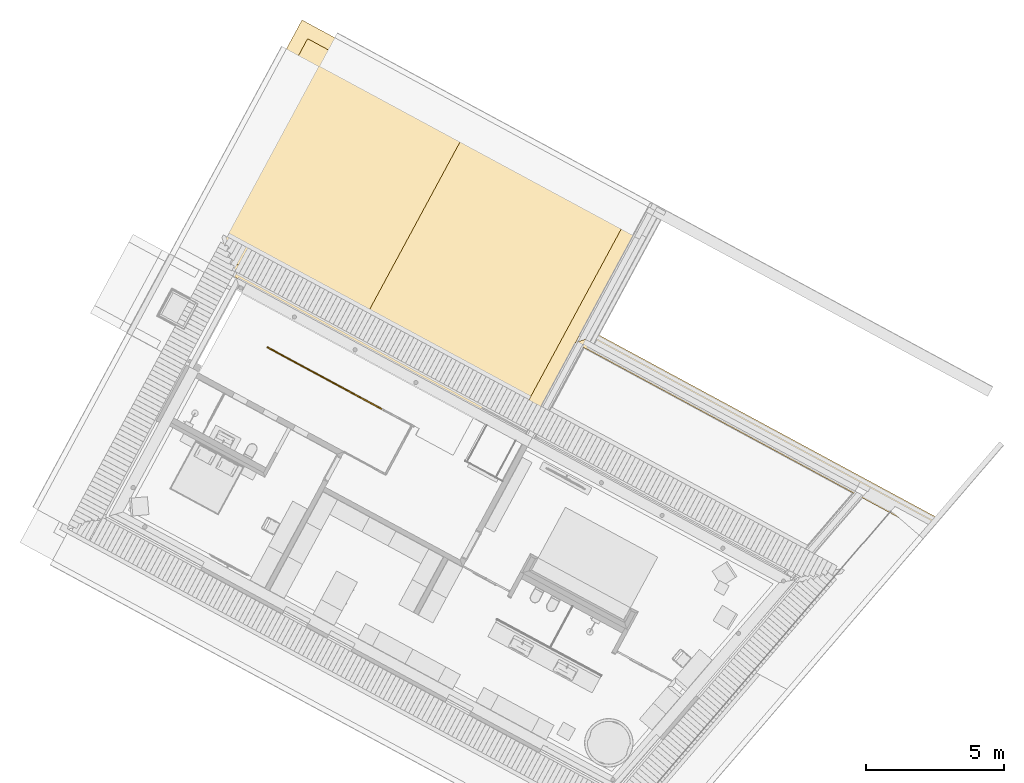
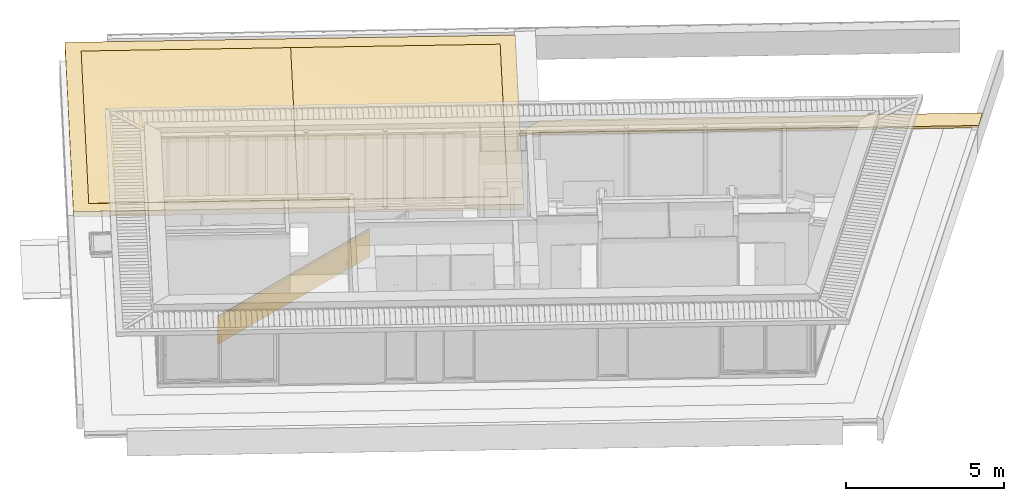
# One storey, part 14 of 41: 4 coverings, 1 railing.
"""IFC2X3 building model written with IfcOpenShell, lengths in metres."""

from ifc_helpers import new_model, entity, si_unit, converted_unit, derived_unit, money_unit, direction, frame, origin_with_axes, place, context, subcontext, project, spatial, polyline, outline, composite_profile, extrude, boolean, faceted_brep, material, material_list, type_object, element, save


model = new_model("IFC2X3")

# Units and contexts
model_context = context("Model", 3, precision=1e-05, world=origin_with_axes(), true_north=direction((0.0, 1.0)))
body_context = subcontext(model_context, "Body", "Model", "MODEL_VIEW")
ifc_project = project(units=[si_unit("LENGTHUNIT", "METRE"), si_unit("AREAUNIT", "SQUARE_METRE"), si_unit("VOLUMEUNIT", "CUBIC_METRE"), converted_unit("PLANEANGLEUNIT", "DEGREE", entity("IfcPlaneAngleMeasure", 0.0174532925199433), si_unit("PLANEANGLEUNIT", "RADIAN"), dimensions=[0, 0, 0, 0, 0, 0, 0]), money_unit("EUR"), converted_unit("TIMEUNIT", "Year", entity("IfcTimeMeasure", 31556926.0), si_unit("TIMEUNIT", "SECOND"), dimensions=[0, 0, 1, 0, 0, 0, 0]), si_unit("MASSUNIT", "GRAM", prefix="KILO"), si_unit("THERMODYNAMICTEMPERATUREUNIT", "DEGREE_CELSIUS"), si_unit("LUMINOUSINTENSITYUNIT", "LUMEN"), si_unit("ENERGYUNIT", "JOULE", prefix="MEGA"), derived_unit("THERMALCONDUCTANCEUNIT", [(si_unit("POWERUNIT", "WATT"), 1), (si_unit("LENGTHUNIT", "METRE"), -1), (si_unit("THERMODYNAMICTEMPERATUREUNIT", "KELVIN"), -1)]), derived_unit("SPECIFICHEATCAPACITYUNIT", [(si_unit("ENERGYUNIT", "JOULE"), 1), (si_unit("MASSUNIT", "GRAM", prefix="KILO"), -1), (si_unit("THERMODYNAMICTEMPERATUREUNIT", "KELVIN"), -1)]), derived_unit("MASSDENSITYUNIT", [(si_unit("MASSUNIT", "GRAM", prefix="KILO"), 1), (si_unit("VOLUMEUNIT", "CUBIC_METRE"), -1)])], contexts=[model_context])

# Site, building, storey
site_placement = place(None, frame((-3.949935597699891, 1.740105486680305, 0.0), z_axis=(0.0, 0.0, 1.0), x_axis=(0.8799804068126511, -0.475009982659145, 0.0)))
site = spatial("IfcSite", under=ifc_project, at=site_placement, Name="Gelände", CompositionType="ELEMENT")
building_placement = place(site_placement, origin_with_axes())
building = spatial("IfcBuilding", under=site, at=building_placement, Name="Gebäude", CompositionType="ELEMENT")
storey_placement = place(building_placement, frame((0.0, 0.0, 4.55), z_axis=(0.0, 0.0, 1.0), x_axis=(1.0, 0.0, 0.0)))
storey = spatial("IfcBuildingStorey", under=building, at=storey_placement, Name="Staffelgeschoss", CompositionType="ELEMENT", Elevation=4.55)

# Railing
ifc_material_1 = material(Name="Metall, Stahl lackiert")
ifc_material_2 = material(Name="Glas, Normalglas-50% durchlässig")
ifc_material_list_1 = material_list([ifc_material_1, ifc_material_1, ifc_material_1, ifc_material_1, ifc_material_1, ifc_material_2])
railing_type = type_object("IfcRailingType", Name="Geländerart", PredefinedType="NOTDEFINED")
railing_placement = place(storey_placement, frame((7.1514093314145, 9.357791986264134, -4.170822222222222), z_axis=(0.0, 0.0, 1.0), x_axis=(1.0, 0.0, 0.0)))
element("IfcRailing", 1, at=railing_placement, inside=storey, type_object=railing_type, material=ifc_material_list_1, Name="Geländer-005", PredefinedType="NOTDEFINED", context=body_context, shape_type="Brep", body=[
    faceted_brep([(0.2685803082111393, -0.01999975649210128, 0.01372528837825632), (0.2685798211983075, 0.02000024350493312, 0.01372528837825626), (0.2685798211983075, 0.02000024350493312, 1.113725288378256), (0.2685803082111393, -0.01999975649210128, 1.113725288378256), (0.2285803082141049, -0.02000024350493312, -0.01372528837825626), (0.2285798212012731, 0.01999975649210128, -0.01372528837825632), (0.2285798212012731, 0.01999975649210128, 1.086274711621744), (0.2285803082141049, -0.02000024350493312, 1.086274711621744)], [[[0, 1, 2, 3]], [[0, 4, 5, 1]], [[1, 5, 6, 2]], [[3, 2, 6, 7]], [[4, 0, 3, 7]], [[5, 4, 7, 6]]]),
    faceted_brep([(0.2485798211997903, 0.01999999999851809, 1.1), (0.2609850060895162, 0.02000015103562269, 1.06), (0.2385798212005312, 0.01999987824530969, 1.06), (0.2385798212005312, 0.01999987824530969, 0.0), (0.1985798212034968, 0.01999939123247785, 0.0), (0.1985798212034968, 0.01999939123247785, 1.1), (0.2485803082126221, -0.01999999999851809, 1.1), (0.2609854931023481, -0.01999984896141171, 1.06), (0.2385803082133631, -0.02000012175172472, 1.06), (0.2385803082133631, -0.02000012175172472, 0.0), (0.1985803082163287, -0.02000060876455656, 0.0), (0.1985803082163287, -0.02000060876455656, 1.1)], [[[0, 1, 2, 3, 4, 5]], [[0, 6, 7, 1]], [[1, 7, 8, 2]], [[2, 8, 9, 3]], [[4, 3, 9, 10]], [[11, 5, 4, 10]], [[6, 0, 5, 11]], [[7, 6, 11, 10, 9, 8]]]),
    faceted_brep([(5.005562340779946, -0.01994208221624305, 3.264547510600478), (5.005561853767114, 0.02005791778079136, 3.264547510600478), (5.005561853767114, 0.02005791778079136, 4.364547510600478), (5.005562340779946, -0.01994208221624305, 4.364547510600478), (4.965562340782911, -0.01994256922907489, 3.237096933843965), (4.96556185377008, 0.02005743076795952, 3.237096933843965), (4.96556185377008, 0.02005743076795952, 4.337096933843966), (4.965562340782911, -0.01994256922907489, 4.337096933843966)], [[[0, 1, 2, 3]], [[0, 4, 5, 1]], [[1, 5, 6, 2]], [[3, 2, 6, 7]], [[4, 0, 3, 7]], [[5, 4, 7, 6]]]),
    faceted_brep([(4.98556234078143, -0.01994232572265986, 4.350822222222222), (4.997967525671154, -0.01994217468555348, 4.310822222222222), (4.995562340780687, -0.01994220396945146, 4.310822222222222), (4.995562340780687, -0.01994220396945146, 3.250822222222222), (5.035562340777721, -0.01994171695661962, 3.250822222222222), (5.035562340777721, -0.01994171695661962, 4.350822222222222), (4.985561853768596, 0.02005767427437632, 4.350822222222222), (4.997967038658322, 0.02005782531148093, 4.310822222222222), (4.995561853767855, 0.02005779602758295, 4.310822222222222), (4.995561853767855, 0.02005779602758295, 3.250822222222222), (5.035561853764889, 0.02005828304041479, 3.250822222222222), (5.035561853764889, 0.02005828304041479, 4.350822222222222)], [[[0, 1, 2, 3, 4, 5]], [[0, 6, 7, 1]], [[1, 7, 8, 2]], [[2, 8, 9, 3]], [[4, 3, 9, 10]], [[11, 5, 4, 10]], [[6, 0, 5, 11]], [[7, 6, 11, 10, 9, 8]]]),
    faceted_brep([(0.2485803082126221, -0.01999999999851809, 1.1), (0.2609854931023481, -0.01999984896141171, 1.06), (4.997967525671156, -0.01994217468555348, 4.310822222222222), (4.98556234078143, -0.01994232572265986, 4.350822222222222), (0.2485798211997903, 0.01999999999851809, 1.1), (0.2609850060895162, 0.02000015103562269, 1.06), (4.997967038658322, 0.02005782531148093, 4.310822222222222), (4.985561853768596, 0.02005767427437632, 4.350822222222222)], [[[0, 1, 2, 3]], [[0, 4, 5, 1]], [[1, 5, 6, 2]], [[3, 2, 6, 7]], [[4, 0, 3, 7]], [[5, 4, 7, 6]]]),
    faceted_brep([(4.985561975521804, 0.01005767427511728, 3.250822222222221), (0.2485799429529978, 0.009999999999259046, 0.0), (0.2485799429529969, 0.009999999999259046, 0.9999999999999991), (4.985561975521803, 0.01005767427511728, 4.250822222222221), (0.2485801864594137, -0.009999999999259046, 0.0), (4.985562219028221, -0.009942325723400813, 3.250822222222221), (0.2485801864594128, -0.009999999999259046, 0.9999999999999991), (4.985562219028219, -0.009942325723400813, 4.250822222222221)], [[[0, 1, 2, 3]], [[4, 1, 0, 5]], [[6, 2, 1, 4]], [[3, 2, 6, 7]], [[0, 3, 7, 5]], [[6, 4, 5, 7]]]),
])

# Coverings
ifc_material_3 = material(Name="_SIWH - Gründach")
covering_type_1 = type_object("IfcCoveringType", Name="_SIWH - Gründach", PredefinedType="ROOFING")
covering_1_placement = place(storey_placement, frame((9.972490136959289, 11.0378005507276, -0.3299999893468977), z_axis=(0.0, 0.0, 1.0), x_axis=(1.0, 0.0, 0.0)))
element("IfcCovering", 2, at=covering_1_placement, inside=storey, type_object=covering_type_1, material=ifc_material_3, Name="Freifläche-006", PredefinedType="ROOFING", context=body_context, shape_type="Brep", body=[
    faceted_brep([(6.635000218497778, 8.84748155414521, 0.1847004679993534), (0.0, 8.84748155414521, 0.1847004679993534), (0.0, 8.241240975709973, 0.1709999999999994), (6.635000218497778, 8.241240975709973, 0.1709999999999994), (6.635000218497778, 8.84748155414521, 0.08470046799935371), (0.0, 8.84748155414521, 0.08470046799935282), (0.0, 0.4350000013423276, 0.08616940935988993), (0.0, 0.4350000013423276, 0.1861694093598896), (0.0, 1.1062407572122, 0.1709999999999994), (0.0, 8.241240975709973, 0.07099999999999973), (0.0, 1.1062407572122, 0.07100000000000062), (6.635000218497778, 7.741240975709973, 0.1610490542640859), (3.56750010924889, 4.673740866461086, 0.09999999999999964), (6.635000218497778, 1.6062407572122, 0.1610490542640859), (6.635000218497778, 1.1062407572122, 0.1709999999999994), (6.635000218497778, 0.4350000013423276, 0.1861694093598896), (6.635000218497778, 0.4350000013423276, 0.08616940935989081), (6.635000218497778, 1.1062407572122, 0.07100000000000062), (6.635000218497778, 1.6062407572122, 0.06104905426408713), (6.635000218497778, 7.741240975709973, 0.06104905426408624), (6.635000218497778, 8.241240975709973, 0.07099999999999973), (3.56750010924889, 4.673740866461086, 0.0)], [[[0, 1, 2, 3]], [[1, 0, 4, 5]], [[6, 7, 8, 2, 1, 5, 9, 10]], [[11, 3, 2, 12]], [[0, 3, 11, 13, 14, 15, 16, 17, 18, 19, 20, 4]], [[4, 20, 9, 5]], [[15, 7, 6, 16]], [[15, 14, 8, 7]], [[12, 2, 8]], [[21, 10, 9]], [[16, 6, 10, 17]], [[13, 11, 12]], [[14, 13, 12, 8]], [[18, 17, 10, 21]], [[19, 18, 21]], [[20, 19, 21, 9]]]),
    faceted_brep([(7.134986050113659, 8.241226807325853, 0.1709997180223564), (7.134986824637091, 3.845245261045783, 0.1709997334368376), (7.135000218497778, 3.845245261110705, 0.1709999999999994), (7.135000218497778, 8.241240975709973, 0.1709999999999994), (7.134986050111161, 8.241240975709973, 0.1709999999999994), (7.134985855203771, 9.34748161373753, 0.1959999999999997), (7.134985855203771, 9.34748161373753, 0.09600000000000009), (7.134986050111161, 8.241240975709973, 0.07099999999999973), (7.134986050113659, 8.241226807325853, 0.07099971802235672), (7.134986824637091, 3.845245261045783, 0.07099973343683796), (7.135000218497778, 3.845245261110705, 0.07100000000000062), (7.135000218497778, 8.241240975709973, 0.07099999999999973), (7.135000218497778, 9.34748161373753, 0.09600000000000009), (7.135000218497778, 9.34748161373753, 0.1959999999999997)], [[[0, 1, 2, 3]], [[4, 5, 6, 7, 8, 9, 1, 0]], [[10, 2, 1, 9]], [[2, 10, 11, 12, 13, 3]], [[4, 0, 3]], [[5, 4, 3, 13]], [[6, 5, 13, 12]], [[7, 6, 12, 11]], [[8, 7, 11]], [[9, 8, 11, 10]]]),
])
covering_2_placement = place(storey_placement, frame((2.837489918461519, 11.0378005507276, -0.3299999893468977), z_axis=(0.0, 0.0, 1.0), x_axis=(1.0, 0.0, 0.0)))
element("IfcCovering", 3, at=covering_2_placement, inside=storey, type_object=covering_type_1, material=ifc_material_3, Name="Freifläche-006", PredefinedType="ROOFING", context=body_context, shape_type="Brep", body=[
    faceted_brep([(7.135000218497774, 0.4350000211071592, 0.1861694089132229), (7.135000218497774, 0.4350000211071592, 0.08616940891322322), (7.135000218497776, 1.1062407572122, 0.07099999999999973), (7.135000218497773, 8.241240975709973, 0.07099999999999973), (7.135000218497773, 8.847481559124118, 0.08470046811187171), (7.135000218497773, 8.847481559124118, 0.1847004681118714), (7.135000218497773, 8.241240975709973, 0.1709999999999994), (7.135000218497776, 1.1062407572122, 0.1709999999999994), (0.4999999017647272, 0.4350000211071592, 0.1861694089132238), (0.4999999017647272, 0.4350000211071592, 0.08616940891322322), (0.4999999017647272, 1.1062407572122, 0.07100000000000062), (3.567500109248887, 4.673740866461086, 0.0), (0.4999999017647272, 8.847481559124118, 0.0847004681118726), (0.4999999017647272, 8.241240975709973, 0.07100000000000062), (0.4999999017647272, 8.847481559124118, 0.1847004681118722), (0.4999999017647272, 8.241240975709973, 0.1709999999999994), (3.567500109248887, 4.673740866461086, 0.09999999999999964), (0.4999999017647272, 1.1062407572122, 0.1709999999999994), (0.4999999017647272, 7.741241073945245, 0.06104905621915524), (0.4999999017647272, 1.606240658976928, 0.06104905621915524), (0.4999999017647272, 1.606240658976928, 0.161049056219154), (0.4999999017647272, 7.741241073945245, 0.161049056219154)], [[[0, 1, 2, 3, 4, 5, 6, 7]], [[1, 0, 8, 9]], [[9, 10, 2, 1]], [[11, 3, 2]], [[12, 4, 3, 13]], [[14, 5, 4, 12]], [[14, 15, 6, 5]], [[6, 16, 7]], [[8, 0, 7, 17]], [[15, 14, 12, 13, 18, 19, 10, 9, 8, 17, 20, 21]], [[10, 19, 11, 2]], [[18, 13, 3, 11]], [[15, 21, 16, 6]], [[20, 17, 7, 16]], [[19, 18, 11]], [[21, 20, 16]]]),
])
ifc_material_4 = material(Name="_SIWH - Holz, Bauholz")
ifc_material_5 = material(Name="_SIWH - Metall, Aluminium")
ifc_material_list_2 = material_list([ifc_material_4, ifc_material_5])
covering_type_2 = type_object("IfcCoveringType", Name="_SIWH - Attikablech1 Achse3+B EG 660 x 115", PredefinedType="ROOFING")
covering_3_placement = place(storey_placement, frame((17.36749037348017, 15.0830461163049, -0.3999999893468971), z_axis=(0.0, 0.0, 1.0), x_axis=(0.999999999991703, -4.073605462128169e-06, 0.0)))
element("IfcCovering", 4, at=covering_3_placement, inside=storey, type_object=covering_type_2, material=ifc_material_list_2, Name="Wand-028", PredefinedType="ROOFING", context=body_context, shape_type="CSG", body=[
    boolean("DIFFERENCE", boolean("DIFFERENCE", boolean("DIFFERENCE", boolean("DIFFERENCE", boolean("DIFFERENCE", extrude(composite_profile([outline(polyline([(-0.2600000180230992, 0.3599999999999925), (-0.2600000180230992, 0.334999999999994), (0.3399999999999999, 0.334999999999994), (0.3399999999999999, 0.3599999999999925), (-0.2600000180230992, 0.3599999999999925)])), outline(polyline([(0.3699999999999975, 0.2849999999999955), (0.3699999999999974, 0.3999999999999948), (-0.2900000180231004, 0.3768999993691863), (-0.2900000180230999, 0.2849999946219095), (-0.2880000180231, 0.2869999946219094), (-0.2702236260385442, 0.3047763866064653), (-0.2716378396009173, 0.3061906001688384), (-0.2880000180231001, 0.2898284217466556), (-0.2880000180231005, 0.3749687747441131), (0.3679999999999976, 0.3979287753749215), (0.367999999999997, 0.2898284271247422), (0.3514142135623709, 0.3064142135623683), (0.3499999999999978, 0.3049999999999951), (0.3699999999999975, 0.2849999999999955)]))]), frame((-0.2900176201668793, 0.0, 0.0), z_axis=(1.0, 0.0, 0.0), x_axis=(0.0, 1.0, 0.0)), (0.0, 0.0, 1.0), 14.70200430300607), faceted_brep([(0.3679974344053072, 0.3108222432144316, 0.3979287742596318), (0.3699974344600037, 0.3108222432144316, 0.3979287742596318), (0.3699969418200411, 0.3699999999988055, 0.3999999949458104), (-0.2900176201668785, 0.3699999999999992, 0.399999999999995), (-0.2900176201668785, -0.2900000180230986, 0.3768999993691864), (-0.2328196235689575, -0.2900000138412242, 0.3769000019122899), (0.367996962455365, 0.3679999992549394, 0.3979287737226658), (0.3699969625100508, 0.3679999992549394, 0.3979287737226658), (0.369996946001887, 0.3699999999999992, 0.3979287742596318), (0.369996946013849, 0.3699999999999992, 0.2898284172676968), (0.3699969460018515, 0.3699999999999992, 0.2849999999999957), (-0.2900176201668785, 0.3699999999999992, 0.2849999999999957), (0.3699969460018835, 0.3699999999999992, 0.3599999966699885), (0.3699969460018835, 0.3699999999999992, 0.334999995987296), (0.3699969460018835, 0.3699999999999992, 0.306414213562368), (0.3699969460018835, 0.3699999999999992, 0.3061906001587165), (-0.2900176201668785, 0.3499999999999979, 0.3049999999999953), (-0.2900176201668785, 0.3514142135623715, 0.306414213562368), (-0.2900176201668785, 0.3679999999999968, 0.2898284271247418), (-0.2900176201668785, 0.3679999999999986, 0.3979287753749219), (-0.2900176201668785, -0.2880000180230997, 0.3749687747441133), (-0.2900176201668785, -0.2880000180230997, 0.2898284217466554), (-0.2900176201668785, -0.2716378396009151, 0.3061906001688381), (-0.2900176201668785, -0.2702236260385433, 0.3047763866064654), (-0.2900176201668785, -0.2880000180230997, 0.2869999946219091), (-0.2900176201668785, -0.2900000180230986, 0.2849999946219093), (-0.2879976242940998, -0.290000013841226, 0.3749687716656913), (-0.2899976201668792, -0.2900000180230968, 0.2849999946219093), (-0.2851692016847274, -0.2900000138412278, 0.2898284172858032), (-0.2879976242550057, -0.290000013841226, 0.289828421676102), (-0.2879976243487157, -0.290000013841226, 0.3061906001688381), (-0.2879976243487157, -0.290000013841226, 0.306414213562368), (-0.2879976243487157, -0.290000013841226, 0.334999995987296), (-0.2879976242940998, -0.290000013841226, 0.3599999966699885), (-0.2879976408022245, -0.2880000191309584, 0.3749687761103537), (0.3679969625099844, 0.3679999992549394, 0.289828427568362), (0.3699969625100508, 0.3679999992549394, 0.289828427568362), (0.3699969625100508, 0.3679999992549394, 0.3061906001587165), (0.3699969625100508, 0.3679999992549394, 0.306414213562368), (0.3699969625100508, 0.3679999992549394, 0.334999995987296), (0.3699969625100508, 0.3679999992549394, 0.3599999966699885), (0.3699969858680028, 0.3651715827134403, 0.2898284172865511), (0.3679969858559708, 0.3651715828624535, 0.2898284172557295), (0.3528255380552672, 0.3499999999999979, 0.3050000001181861), (0.3516349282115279, 0.3511905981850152, 0.3061906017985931), (0.3514113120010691, 0.3514142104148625, 0.3064142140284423), (0.3516349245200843, 0.3516378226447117, 0.3061906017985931), (-0.2879976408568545, -0.2880000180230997, 0.3061906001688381), (-0.2879976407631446, -0.2880000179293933, 0.289828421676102), (-0.2879976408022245, -0.2880000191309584, 0.3599999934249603), (-0.2879976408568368, -0.2880000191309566, 0.3349999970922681), (-0.2879976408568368, -0.2880000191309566, 0.3064142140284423), (-0.2702213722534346, -0.2730520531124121, 0.3047763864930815), (-0.2716355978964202, -0.2716378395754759, 0.306190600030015), (-0.2851692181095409, -0.2880000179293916, 0.289828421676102), (-0.2702213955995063, -0.2702236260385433, 0.3047763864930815), (-0.2851692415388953, -0.285171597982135, 0.2898284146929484), (-0.2879976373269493, -0.2880000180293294, 0.286999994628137)], [[[0, 1, 2, 3, 4, 5]], [[6, 7, 1, 0]], [[8, 2, 1, 7]], [[9, 10, 11, 3, 2, 8, 12, 13, 14, 15]], [[4, 3, 11, 16, 17, 18, 19, 20, 21, 22, 23, 24, 25]], [[26, 5, 4, 25, 27, 28, 29, 30, 31, 32, 33]], [[34, 6, 0, 5, 26]], [[7, 6, 19, 18, 35, 36, 37, 38, 39, 40]], [[12, 8, 7, 40]], [[10, 9, 36, 41]], [[42, 43, 16, 11, 10, 41]], [[13, 12, 40, 39]], [[14, 13, 39, 38]], [[15, 14, 38, 37]], [[9, 15, 37, 36]], [[44, 45, 17, 16, 43]], [[46, 35, 18, 17, 45]], [[6, 34, 20, 19]], [[47, 48, 21, 20, 34, 49, 50, 51]], [[52, 53, 22, 21, 48, 54]], [[53, 55, 23, 22]], [[56, 57, 24, 23, 55]], [[57, 27, 25, 24]], [[57, 56, 54, 28, 27]], [[54, 48, 29, 28]], [[48, 47, 30, 29]], [[47, 51, 31, 30]], [[51, 50, 32, 31]], [[50, 49, 33, 32]], [[49, 34, 26, 33]], [[36, 35, 42, 41]], [[35, 46, 44, 43, 42]], [[46, 45, 44]], [[55, 53, 52]], [[56, 55, 52, 54]]])), faceted_brep([(-0.2900176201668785, -0.260000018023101, 0.3599999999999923), (0.3400021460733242, -0.2600000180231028, 0.3599999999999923), (0.3399971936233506, 0.3399999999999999, 0.3599999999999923), (-0.2900176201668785, 0.3399999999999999, 0.3599999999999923), (-0.2900176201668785, -0.260000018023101, 0.3349999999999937), (0.3400021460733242, -0.2600000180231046, 0.3349999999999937), (0.3399971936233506, 0.3399999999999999, 0.3349999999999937), (-0.2900176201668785, 0.3399999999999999, 0.3349999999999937)], [[[0, 1, 2, 3]], [[4, 5, 1, 0]], [[5, 6, 2, 1]], [[3, 2, 6, 7]], [[7, 4, 0, 3]], [[7, 6, 5, 4]]])), faceted_brep([(14.41198668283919, 0.3399999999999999, 0.3349999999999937), (14.38301305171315, 0.3400000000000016, 0.3349999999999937), (14.38301305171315, 0.3400000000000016, 0.3599999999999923), (14.41198668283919, 0.3399999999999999, 0.3599999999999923), (14.41198668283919, -0.2600000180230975, 0.3349999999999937), (14.25193762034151, -0.2600000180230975, 0.3349999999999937), (14.25193762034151, -0.2600000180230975, 0.3599999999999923), (14.41198668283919, -0.2600000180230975, 0.3599999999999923)], [[[0, 1, 2, 3]], [[4, 5, 1, 0]], [[5, 6, 2, 1]], [[3, 2, 6, 7]], [[0, 3, 7, 4]], [[7, 6, 5, 4]]])), faceted_brep([(11.20646394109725, -0.2702236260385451, 0.304776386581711), (11.20615503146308, -0.2716378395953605, 0.3061906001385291), (11.53390662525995, -0.2716378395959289, 0.3061906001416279), (11.53421549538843, -0.2702236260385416, 0.3047763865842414), (11.20258100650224, -0.2880000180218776, 0.2869999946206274), (11.20214414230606, -0.2900000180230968, 0.2849999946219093), (11.20214414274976, -0.2900000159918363, 0.3349999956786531), (11.20258100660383, -0.2880000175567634, 0.3349999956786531), (11.20258100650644, -0.2880000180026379, 0.289828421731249), (11.5303330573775, -0.2880000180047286, 0.289828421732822), (11.53033305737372, -0.2880000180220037, 0.2869999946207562), (11.53033305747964, -0.2880000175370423, 0.3349999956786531), (11.52989624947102, -0.2900000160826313, 0.3349999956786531), (11.52989624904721, -0.2900000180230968, 0.2849999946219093)], [[[0, 1, 2, 3]], [[1, 0, 4, 5, 6, 7, 8]], [[9, 2, 1, 8]], [[10, 3, 2, 9, 11, 12, 13]], [[4, 0, 3, 10]], [[5, 4, 10, 13]], [[6, 5, 13, 12]], [[11, 7, 6, 12]], [[11, 9, 8, 7]]])), faceted_brep([(14.38956682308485, 0.3699999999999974, 0.2849999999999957), (14.38956682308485, 0.3699999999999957, 0.399999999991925), (14.41198668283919, 0.3699999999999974, 0.399999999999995), (14.41198668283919, 0.3699999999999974, 0.2849999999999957), (14.24538384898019, -0.2900000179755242, 0.376899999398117), (14.38519764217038, 0.3499999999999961, 0.3050000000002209), (14.38550658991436, 0.3514142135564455, 0.3064142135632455), (14.38912990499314, 0.3679999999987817, 0.2898284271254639), (14.38912990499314, 0.3679999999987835, 0.3979287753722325), (14.24582076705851, -0.2880000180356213, 0.3749687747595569), (14.24582076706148, -0.2880000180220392, 0.2898284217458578), (14.24939523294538, -0.2716378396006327, 0.3061906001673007), (14.2497041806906, -0.2702236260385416, 0.3047763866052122), (14.24582076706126, -0.2880000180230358, 0.2869999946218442), (14.24538384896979, -0.2900000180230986, 0.2849999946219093), (14.41198668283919, -0.2900000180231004, 0.3768999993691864), (14.41198668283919, 0.3514142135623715, 0.306414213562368), (14.41198668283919, 0.3499999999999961, 0.3049999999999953), (14.41198668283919, -0.2900000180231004, 0.2849999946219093), (14.41198668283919, -0.2880000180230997, 0.2869999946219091), (14.41198668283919, -0.2702236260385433, 0.3047763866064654), (14.41198668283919, -0.2716378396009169, 0.3061906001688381), (14.41198668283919, -0.2880000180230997, 0.2898284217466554), (14.41198668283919, -0.2880000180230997, 0.3749687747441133), (14.41198668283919, 0.3679999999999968, 0.3979287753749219), (14.41198668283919, 0.3679999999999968, 0.2898284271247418)], [[[0, 1, 2, 3]], [[4, 1, 0, 5, 6, 7, 8, 9, 10, 11, 12, 13, 14]], [[1, 4, 15, 2]], [[16, 17, 3, 2, 15, 18, 19, 20, 21, 22, 23, 24, 25]], [[5, 0, 3, 17]], [[6, 5, 17, 16]], [[7, 6, 16, 25]], [[8, 7, 25, 24]], [[9, 8, 24, 23]], [[10, 9, 23, 22]], [[11, 10, 22, 21]], [[12, 11, 21, 20]], [[13, 12, 20, 19]], [[14, 13, 19, 18]], [[4, 14, 18, 15]]])),
])
ifc_material_6 = material(Name="_SIWH - Schotter, fein")
covering_type_3 = type_object("IfcCoveringType", Name="_SIWH - Schotter, fein  200", PredefinedType="ROOFING")
covering_4_placement = place(storey_placement, frame((2.837489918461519, 11.03780061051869, -0.1499999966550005), z_axis=(0.0, 0.0, 1.0), x_axis=(1.0, 0.0, 0.0)))
element("IfcCovering", 5, at=covering_4_placement, inside=storey, type_object=covering_type_3, material=ifc_material_6, Name="Decke054", PredefinedType="ROOFING", context=body_context, shape_type="CSG", body=[
    boolean("DIFFERENCE", extrude(outline(polyline([(0.0, 0.0), (14.27000043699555, 0.0), (14.27000043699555, 9.347481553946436), (0.0, 9.347481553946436), (0.0, 0.0)]), holes=[polyline([(13.77000043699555, 8.847481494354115), (13.77000043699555, 0.4349999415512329), (0.5, 0.4349999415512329), (0.5, 8.847481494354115), (13.77000043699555, 8.847481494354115)])]), frame((0.0, 0.0, -0.1999999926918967), z_axis=(0.0, 0.0, 1.0), x_axis=(1.0, 0.0, 0.0)), (0.0, 0.0, 1.0), 0.1999999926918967), faceted_brep([(13.77000043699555, 7.741240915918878, -0.1189509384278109), (13.77000043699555, 8.241240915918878, -0.1089999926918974), (13.77000043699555, 8.847481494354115, -0.09529952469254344), (13.77000043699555, 8.847481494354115, -0.1999999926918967), (13.77000043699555, 0.4349999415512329, -0.1999999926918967), (13.77000043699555, 0.4349999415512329, -0.09383058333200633), (13.77000043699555, 1.106240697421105, -0.1089999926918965), (13.77000043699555, 1.606240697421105, -0.11895093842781), (14.26998607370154, 8.241226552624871, -0.1090002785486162), (14.26998607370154, 8.241240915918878, -0.1089999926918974), (14.26998607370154, 9.347481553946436, -0.08399999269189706), (0.0, 9.347481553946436, -0.08399999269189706), (0.0, 8.241240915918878, -0.1089999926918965), (0.5000000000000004, 8.241240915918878, -0.1089999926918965), (0.5000000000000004, 8.847481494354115, -0.09529952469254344), (0.5000000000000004, 8.847481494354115, -0.1999999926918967), (14.27000043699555, 0.0, -0.1999999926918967), (0.0, 0.0, -0.1999999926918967), (0.0, 9.347481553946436, -0.1999999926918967), (14.27000043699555, 9.347481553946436, -0.1999999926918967), (0.5000000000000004, 0.4349999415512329, -0.1999999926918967), (0.5000000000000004, 0.4349999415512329, -0.09383058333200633), (14.27000043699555, -5.979109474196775e-08, -0.08399999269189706), (14.27000043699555, 1.106240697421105, -0.1089999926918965), (0.5000000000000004, 1.106240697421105, -0.1089999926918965), (0.0, 1.106240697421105, -0.1089999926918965), (0.0, -5.979109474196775e-08, -0.08399999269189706), (14.27000043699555, 3.84524520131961, -0.1089999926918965), (14.26998704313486, 3.845245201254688, -0.1090002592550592), (14.26998704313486, 3.845245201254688, 0.0), (14.26998607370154, 9.347481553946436, 0.0), (14.27000043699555, 9.347481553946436, 0.0), (0.5000000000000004, 7.741240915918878, -0.11895093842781), (0.5000000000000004, 1.606240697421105, -0.11895093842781), (14.27000043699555, 3.84524520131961, 0.0)], [[[0, 1, 2, 3, 4, 5, 6, 7]], [[1, 0, 8, 9]], [[10, 11, 12, 13, 14, 2, 1, 9]], [[2, 14, 15, 3]], [[16, 17, 18, 19], [4, 3, 15, 20]], [[21, 5, 4, 20]], [[22, 23, 6, 5, 21, 24, 25, 26]], [[7, 6, 23]], [[23, 27, 28, 8, 0, 7]], [[29, 30, 10, 9, 8, 28]], [[10, 30, 31, 19, 18, 11]], [[12, 11, 18, 17, 26, 25]], [[32, 13, 12]], [[24, 21, 20, 15, 14, 13, 32, 33]], [[22, 26, 17, 16]], [[23, 22, 16, 19, 31, 34, 27]], [[24, 33, 25]], [[27, 34, 29, 28]], [[30, 29, 34, 31]], [[33, 32, 12, 25]]])),
])

save(model, "model.ifc")
